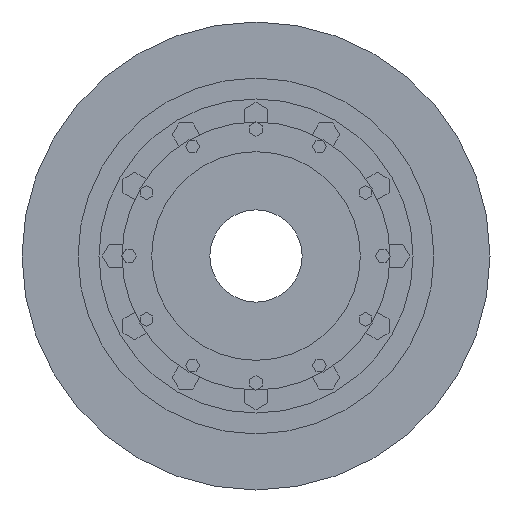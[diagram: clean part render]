
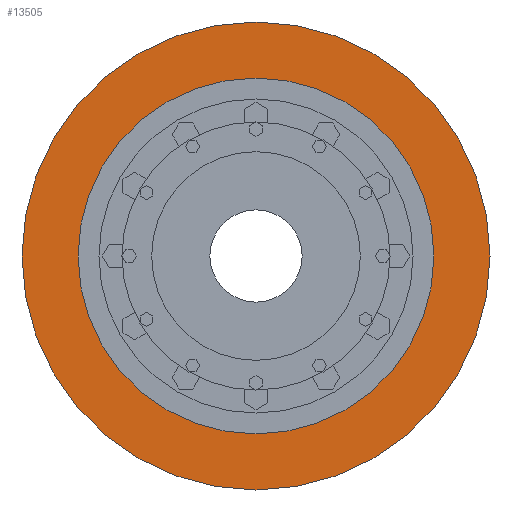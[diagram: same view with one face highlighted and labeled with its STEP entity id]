
A CAD part, left-side view. The second image highlights one B-rep face of the part: STEP entity #13505.
In plain terms, the highlighted planar face has unit normal (-1, 0, 0).
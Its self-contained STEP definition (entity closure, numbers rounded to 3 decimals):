
#13302=CARTESIAN_POINT('',(-42.5,0.,0.));
#13303=DIRECTION('',(-1.,0.,0.));
#13304=DIRECTION('',(0.,1.,0.));
#13305=AXIS2_PLACEMENT_3D('',#13302,#13303,#13304);
#13307=CARTESIAN_POINT('',(-42.5,0.,0.));
#13308=DIRECTION('',(1.,0.,0.));
#13309=DIRECTION('',(0.,1.,0.));
#13310=AXIS2_PLACEMENT_3D('',#13307,#13308,#13309);
#13312=CARTESIAN_POINT('',(-42.5,0.,0.));
#13313=DIRECTION('',(1.,0.,0.));
#13314=DIRECTION('',(0.,1.,0.));
#13315=AXIS2_PLACEMENT_3D('',#13312,#13313,#13314);
#13325=CARTESIAN_POINT('',(-42.5,0.,0.));
#13326=DIRECTION('',(-1.,0.,0.));
#13327=DIRECTION('',(0.,1.,0.));
#13328=AXIS2_PLACEMENT_3D('',#13325,#13326,#13327);
#13348=CARTESIAN_POINT('',(-42.5,308.8,0.));
#13350=VERTEX_POINT('',#13348);
#13360=CARTESIAN_POINT('',(-42.5,-308.8,0.));
#13362=VERTEX_POINT('',#13360);
#13365=CARTESIAN_POINT('',(-42.5,406.,0.));
#13367=VERTEX_POINT('',#13365);
#13369=CARTESIAN_POINT('',(-42.5,-406.,0.));
#13371=VERTEX_POINT('',#13369);
#13490=CARTESIAN_POINT('',(-42.5,0.,0.));
#13491=DIRECTION('',(1.,0.,0.));
#13492=DIRECTION('',(0.,-1.,0.));
#13493=AXIS2_PLACEMENT_3D('',#13490,#13491,#13492);
#13494=PLANE('',#13493);
#13495=ORIENTED_EDGE('',*,*,#13483,.F.);
#13496=ORIENTED_EDGE('',*,*,#13472,.T.);
#13497=EDGE_LOOP('',(#13495,#13496));
#13498=FACE_OUTER_BOUND('',#13497,.F.);
#13500=ORIENTED_EDGE('',*,*,#13499,.F.);
#13502=ORIENTED_EDGE('',*,*,#13501,.T.);
#13503=EDGE_LOOP('',(#13500,#13502));
#13504=FACE_BOUND('',#13503,.F.);
#13505=ADVANCED_FACE('',(#13498,#13504),#13494,.F.);
#13306=CIRCLE('',#13305,406.);
#13311=CIRCLE('',#13310,406.);
#13316=CIRCLE('',#13315,308.8);
#13329=CIRCLE('',#13328,308.8);
#13472=EDGE_CURVE('',#13367,#13371,#13311,.T.);
#13483=EDGE_CURVE('',#13367,#13371,#13306,.T.);
#13499=EDGE_CURVE('',#13350,#13362,#13316,.T.);
#13501=EDGE_CURVE('',#13350,#13362,#13329,.T.);
